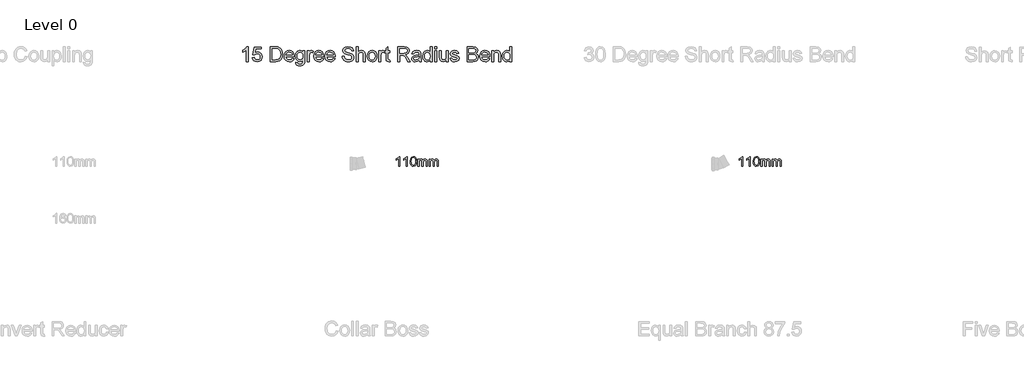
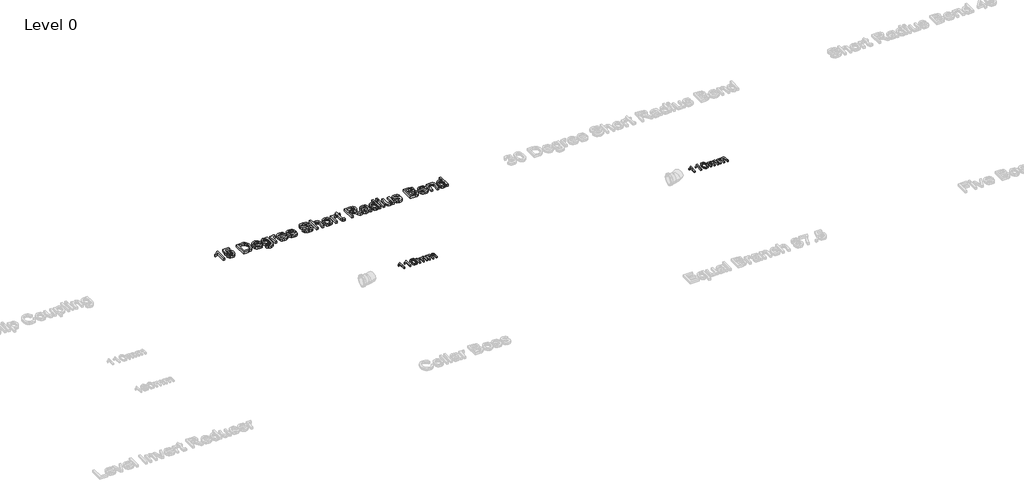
# One storey, part 11 of 15: 3 proxies.
"""IFC4 building model written with IfcOpenShell, lengths in millimetres."""

from ifc_helpers import new_model, si_unit, origin, origin_with_axes, place, context, project, spatial, polyline, outline, extrude, element, save

model = new_model("IFC4")

# Units and contexts
model_context = context("Model", 3, world=origin())
ifc_project = project(units=[si_unit("LENGTHUNIT", "METRE", prefix="MILLI")], contexts=[model_context])

# Site, building, storey
site = spatial("IfcSite", under=ifc_project)
building = spatial("IfcBuilding", under=site)
storey = spatial("IfcBuildingStorey", under=building, Name="Level 0", Elevation=0.0)

# Proxies
placement = place(None, origin())
element("IfcBuildingElementProxy", 1, Name="100mm Arial", ObjectType="100mm Arial", at=placement, inside=storey, context=model_context, shape_type="SweptSolid", body=[
    extrude(outline(polyline([(-13791.7293188, 8237.7167304), (-13804.0370111, 8237.7167304), (-13804.0370111, 8314.4474996), (-13815.6956649, 8306.1422111), (-13828.6523957, 8299.9282688), (-13828.6523957, 8311.5628842), (-13810.6115303, 8323.0773073), (-13799.6620111, 8336.1782688), (-13791.7293188, 8336.1782688), (-13791.7293188, 8237.7167304)])), origin_with_axes(), (0.0, 0.0, 1.0), 15.0),
    extrude(outline(polyline([(-13716.3447034, 8237.7167304), (-13728.6523957, 8237.7167304), (-13728.6523957, 8314.4474996), (-13740.3110495, 8306.1422111), (-13753.2677803, 8299.9282688), (-13753.2677803, 8311.5628842), (-13735.2269149, 8323.0773073), (-13724.2773957, 8336.1782688), (-13716.3447034, 8336.1782688), (-13716.3447034, 8237.7167304)])), origin_with_axes(), (0.0, 0.0, 1.0), 15.0),
    extrude(outline(polyline([(-13687.1139341, 8286.1542304), (-13683.4961457, 8314.4835573), (-13672.7509534, 8330.8176919), (-13654.8062418, 8336.1782688), (-13640.4312418, 8333.0051919), (-13630.5033572, 8323.8585573), (-13624.7341264, 8309.2912496), (-13622.4985495, 8286.1542304), (-13626.0802803, 8257.9450958), (-13636.7894149, 8241.5749035), (-13654.8062418, 8236.1782688), (-13667.5947034, 8238.5220188), (-13677.3062418, 8245.5532688), (-13684.6620111, 8262.2059131), (-13687.1139341, 8286.1542304)]), holes=[polyline([(-13674.8062418, 8286.1782688), (-13673.3639341, 8266.8182929), (-13669.0370111, 8255.613365), (-13662.5947034, 8250.2678121), (-13654.8062418, 8248.4859611), (-13647.0177803, 8250.2738217), (-13640.5754726, 8255.6374035), (-13636.2485495, 8266.848341), (-13634.8062418, 8286.1782688), (-13636.2004726, 8305.1025477), (-13640.3831649, 8316.394615), (-13646.8134534, 8322.0015861), (-13654.9504726, 8323.8705765), (-13662.6547995, 8322.2239419), (-13668.8447034, 8317.2840381), (-13673.3158572, 8305.2888458), (-13674.8062418, 8286.1782688)])]), origin_with_axes(), (0.0, 0.0, 1.0), 15.0),
    extrude(outline(polyline([(-13608.6523957, 8237.7167304), (-13608.6523957, 8310.0244227), (-13596.3447034, 8310.0244227), (-13596.3447034, 8298.1253842), (-13587.8831649, 8307.8729804), (-13575.8398957, 8311.5628842), (-13563.5081649, 8307.800865), (-13556.7293188, 8297.2599996), (-13547.1259534, 8307.9871631), (-13534.9985495, 8311.5628842), (-13525.7467466, 8310.0755044), (-13518.9047995, 8305.613365), (-13514.6770351, 8298.0562736), (-13513.2677803, 8287.2840381), (-13513.2677803, 8237.7167304), (-13525.5754726, 8237.7167304), (-13525.5754726, 8281.9955765), (-13526.7172995, 8292.2720188), (-13530.8519149, 8297.332115), (-13537.8831649, 8299.2551919), (-13549.9865303, 8294.3273073), (-13554.8062418, 8278.5340381), (-13554.8062418, 8237.7167304), (-13567.1139341, 8237.7167304), (-13567.1139341, 8283.3657688), (-13569.9624918, 8295.2888458), (-13579.3014341, 8299.2551919), (-13588.4120111, 8296.6109611), (-13594.4697034, 8288.8705765), (-13596.3447034, 8274.1830765), (-13596.3447034, 8237.7167304), (-13608.6523957, 8237.7167304)])), origin_with_axes(), (0.0, 0.0, 1.0), 15.0),
    extrude(outline(polyline([(-13494.8062418, 8237.7167304), (-13494.8062418, 8310.0244227), (-13482.4985495, 8310.0244227), (-13482.4985495, 8298.1253842), (-13474.0370111, 8307.8729804), (-13461.9937418, 8311.5628842), (-13449.6620111, 8307.800865), (-13442.8831649, 8297.2599996), (-13433.2797995, 8307.9871631), (-13421.1523957, 8311.5628842), (-13411.9005928, 8310.0755044), (-13405.0586457, 8305.613365), (-13400.8308813, 8298.0562736), (-13399.4216264, 8287.2840381), (-13399.4216264, 8237.7167304), (-13411.7293188, 8237.7167304), (-13411.7293188, 8281.9955765), (-13412.8711457, 8292.2720188), (-13417.0057611, 8297.332115), (-13424.0370111, 8299.2551919), (-13436.1403764, 8294.3273073), (-13440.960088, 8278.5340381), (-13440.960088, 8237.7167304), (-13453.2677803, 8237.7167304), (-13453.2677803, 8283.3657688), (-13456.116338, 8295.2888458), (-13465.4552803, 8299.2551919), (-13474.5658572, 8296.6109611), (-13480.6235495, 8288.8705765), (-13482.4985495, 8274.1830765), (-13482.4985495, 8237.7167304), (-13494.8062418, 8237.7167304)])), origin_with_axes(), (0.0, 0.0, 1.0), 15.0),
])
element("IfcBuildingElementProxy", 2, Name="100mm Arial", ObjectType="100mm Arial", at=placement, inside=storey, context=model_context, shape_type="SweptSolid", body=[
    extrude(outline(polyline([(-10291.7293188, 8237.7167304), (-10304.0370111, 8237.7167304), (-10304.0370111, 8314.4474996), (-10315.6956649, 8306.1422111), (-10328.6523957, 8299.9282688), (-10328.6523957, 8311.5628842), (-10310.6115303, 8323.0773073), (-10299.6620111, 8336.1782688), (-10291.7293188, 8336.1782688), (-10291.7293188, 8237.7167304)])), origin_with_axes(), (0.0, 0.0, 1.0), 15.0),
    extrude(outline(polyline([(-10216.3447034, 8237.7167304), (-10228.6523957, 8237.7167304), (-10228.6523957, 8314.4474996), (-10240.3110495, 8306.1422111), (-10253.2677803, 8299.9282688), (-10253.2677803, 8311.5628842), (-10235.2269149, 8323.0773073), (-10224.2773957, 8336.1782688), (-10216.3447034, 8336.1782688), (-10216.3447034, 8237.7167304)])), origin_with_axes(), (0.0, 0.0, 1.0), 15.0),
    extrude(outline(polyline([(-10187.1139341, 8286.1542304), (-10183.4961457, 8314.4835573), (-10172.7509534, 8330.8176919), (-10154.8062418, 8336.1782688), (-10140.4312418, 8333.0051919), (-10130.5033572, 8323.8585573), (-10124.7341264, 8309.2912496), (-10122.4985495, 8286.1542304), (-10126.0802803, 8257.9450958), (-10136.7894149, 8241.5749035), (-10154.8062418, 8236.1782688), (-10167.5947034, 8238.5220188), (-10177.3062418, 8245.5532688), (-10184.6620111, 8262.2059131), (-10187.1139341, 8286.1542304)]), holes=[polyline([(-10174.8062418, 8286.1782688), (-10173.3639341, 8266.8182929), (-10169.0370111, 8255.613365), (-10162.5947034, 8250.2678121), (-10154.8062418, 8248.4859611), (-10147.0177803, 8250.2738217), (-10140.5754726, 8255.6374035), (-10136.2485495, 8266.848341), (-10134.8062418, 8286.1782688), (-10136.2004726, 8305.1025477), (-10140.3831649, 8316.394615), (-10146.8134534, 8322.0015861), (-10154.9504726, 8323.8705765), (-10162.6547995, 8322.2239419), (-10168.8447034, 8317.2840381), (-10173.3158572, 8305.2888458), (-10174.8062418, 8286.1782688)])]), origin_with_axes(), (0.0, 0.0, 1.0), 15.0),
    extrude(outline(polyline([(-10108.6523957, 8237.7167304), (-10108.6523957, 8310.0244227), (-10096.3447034, 8310.0244227), (-10096.3447034, 8298.1253842), (-10087.8831649, 8307.8729804), (-10075.8398957, 8311.5628842), (-10063.5081649, 8307.800865), (-10056.7293188, 8297.2599996), (-10047.1259534, 8307.9871631), (-10034.9985495, 8311.5628842), (-10025.7467466, 8310.0755044), (-10018.9047995, 8305.613365), (-10014.6770351, 8298.0562736), (-10013.2677803, 8287.2840381), (-10013.2677803, 8237.7167304), (-10025.5754726, 8237.7167304), (-10025.5754726, 8281.9955765), (-10026.7172995, 8292.2720188), (-10030.8519149, 8297.332115), (-10037.8831649, 8299.2551919), (-10049.9865303, 8294.3273073), (-10054.8062418, 8278.5340381), (-10054.8062418, 8237.7167304), (-10067.1139341, 8237.7167304), (-10067.1139341, 8283.3657688), (-10069.9624918, 8295.2888458), (-10079.3014341, 8299.2551919), (-10088.4120111, 8296.6109611), (-10094.4697034, 8288.8705765), (-10096.3447034, 8274.1830765), (-10096.3447034, 8237.7167304), (-10108.6523957, 8237.7167304)])), origin_with_axes(), (0.0, 0.0, 1.0), 15.0),
    extrude(outline(polyline([(-9994.8062418, 8237.7167304), (-9994.8062418, 8310.0244227), (-9982.4985495, 8310.0244227), (-9982.4985495, 8298.1253842), (-9974.0370111, 8307.8729804), (-9961.9937418, 8311.5628842), (-9949.6620111, 8307.800865), (-9942.8831649, 8297.2599996), (-9933.2797995, 8307.9871631), (-9921.1523957, 8311.5628842), (-9911.9005928, 8310.0755044), (-9905.0586457, 8305.613365), (-9900.8308813, 8298.0562736), (-9899.4216264, 8287.2840381), (-9899.4216264, 8237.7167304), (-9911.7293188, 8237.7167304), (-9911.7293188, 8281.9955765), (-9912.8711457, 8292.2720188), (-9917.0057611, 8297.332115), (-9924.0370111, 8299.2551919), (-9936.1403764, 8294.3273073), (-9940.960088, 8278.5340381), (-9940.960088, 8237.7167304), (-9953.2677803, 8237.7167304), (-9953.2677803, 8283.3657688), (-9956.116338, 8295.2888458), (-9965.4552803, 8299.2551919), (-9974.5658572, 8296.6109611), (-9980.6235495, 8288.8705765), (-9982.4985495, 8274.1830765), (-9982.4985495, 8237.7167304), (-9994.8062418, 8237.7167304)])), origin_with_axes(), (0.0, 0.0, 1.0), 15.0),
])
element("IfcBuildingElementProxy", 3, Name="150mm Arial", ObjectType="150mm Arial", at=placement, inside=storey, context=model_context, shape_type="SweptSolid", body=[
    extrude(outline(polyline([(-15340.4921876, 9305.2145219), (-15359.3277457, 9305.2145219), (-15359.3277457, 9422.6424548), (-15377.1700225, 9409.9321318), (-15396.9988621, 9400.4223823), (-15396.9988621, 9418.2278708), (-15369.3893183, 9435.8494184), (-15352.6322934, 9455.8989871), (-15340.4921876, 9455.8989871), (-15340.4921876, 9305.2145219)])), origin_with_axes(), (0.0, 0.0, 1.0), 25.0),
    extrude(outline(polyline([(-15295.757737, 9345.240083), (-15276.9221788, 9347.5945278), (-15273.4640881, 9336.2867549), (-15267.4308234, 9328.1887525), (-15258.8499758, 9323.3189146), (-15247.7491366, 9321.6956353), (-15234.2478674, 9323.953511), (-15224.1311125, 9330.7271383), (-15217.8127393, 9341.2347678), (-15215.7066148, 9354.6946503), (-15217.679382, 9367.368185), (-15223.5976836, 9377.0618756), (-15233.5075049, 9383.2147019), (-15247.454831, 9385.2656441), (-15263.9911267, 9381.9914943), (-15274.5677341, 9373.4934202), (-15293.4032922, 9375.847865), (-15276.9221788, 9453.5445424), (-15203.934391, 9453.5445424), (-15203.934391, 9434.7089842), (-15261.6918642, 9434.7089842), (-15269.7484799, 9393.2118952), (-15256.2931959, 9401.3788755), (-15242.1941185, 9404.1012022), (-15224.5955635, 9400.7258849), (-15209.9860498, 9390.599933), (-15200.149805, 9375.1672833), (-15196.8710567, 9355.8718727), (-15199.8233097, 9337.0363145), (-15208.6800687, 9320.9230831), (-15225.6394287, 9307.3758286), (-15247.822713, 9302.8600771), (-15266.3225788, 9305.7617464), (-15281.0608513, 9314.4667541), (-15291.1638106, 9327.9634248), (-15295.757737, 9345.240083)])), origin_with_axes(), (0.0, 0.0, 1.0), 25.0),
    extrude(outline(polyline([(-15114.4654898, 9305.2145219), (-15114.4654898, 9455.8989871), (-15062.4837638, 9455.8989871), (-15035.59159, 9453.7284834), (-15013.4450939, 9442.9495409), (-15003.0248364, 9431.4716227), (-14995.6028171, 9417.1978012), (-14991.160642, 9400.4039882), (-14989.679917, 9381.3660949), (-14993.6898307, 9350.960648), (-15003.9905266, 9329.016487), (-15017.7493132, 9315.3496709), (-15035.7571369, 9307.7896959), (-15059.9821663, 9305.2145219), (-15114.4654898, 9305.2145219)]), holes=[polyline([(-15095.6299316, 9324.0500801), (-15062.2998228, 9324.0500801), (-15038.0563994, 9326.7724068), (-15024.0768835, 9334.4611405), (-15012.6173594, 9353.16794), (-15008.5154751, 9381.6604005), (-15010.5250305, 9402.1882158), (-15016.5536967, 9417.344954), (-15025.4610396, 9427.7560145), (-15036.1066248, 9434.0467966), (-15062.8148576, 9437.063429), (-15095.6299316, 9437.063429), (-15095.6299316, 9324.0500801)])]), origin_with_axes(), (0.0, 0.0, 1.0), 25.0),
    extrude(outline(polyline([(-14888.6595211, 9338.1767487), (-14870.191845, 9335.8223039), (-14876.8459105, 9321.9071674), (-14887.4639046, 9311.505304), (-14901.8067039, 9305.0213839), (-14919.6351851, 9302.8600771), (-14941.735696, 9306.5894809), (-14958.7410412, 9317.7776921), (-14969.584363, 9335.6981437), (-14973.1988036, 9359.624269), (-14969.5475748, 9384.3551361), (-14958.5938884, 9402.8504034), (-14941.8184694, 9414.383504), (-14920.7020429, 9418.2278708), (-14900.2432054, 9414.392701), (-14883.8954493, 9402.8871916), (-14873.1762876, 9384.4287125), (-14869.6032338, 9359.7346336), (-14869.7135984, 9354.6578621), (-14954.3632455, 9354.6578621), (-14951.1028913, 9340.5587846), (-14943.5291207, 9330.1937094), (-14932.5984269, 9323.8201538), (-14919.2673031, 9321.6956353), (-14900.799627, 9325.6319727), (-14888.6595211, 9338.1767487)]), holes=[polyline([(-14954.3632455, 9373.4934202), (-14888.4387919, 9373.4934202), (-14890.9863747, 9383.4446282), (-14895.9803728, 9390.5631448), (-14906.9616504, 9397.1850207), (-14920.7756193, 9399.3923127), (-14933.4721467, 9397.6310776), (-14943.9705791, 9392.3473725), (-14951.2684382, 9384.1114143), (-14954.3632455, 9373.4934202)])]), origin_with_axes(), (0.0, 0.0, 1.0), 25.0),
    extrude(outline(polyline([(-14855.4765652, 9295.7967428), (-14836.641007, 9293.4422981), (-14830.5341659, 9283.5094842), (-14812.2504307, 9279.3156295), (-14792.9734142, 9284.0613072), (-14783.7763643, 9297.3786354), (-14782.4887773, 9319.3411905), (-14795.7509232, 9308.7461891), (-14811.9193369, 9305.2145219), (-14831.3389077, 9309.3256032), (-14845.8196628, 9321.6588471), (-14854.8281731, 9339.7402472), (-14857.8310099, 9361.095797), (-14852.4415387, 9390.2872333), (-14845.8472539, 9402.1376321), (-14836.8433421, 9410.9438073), (-14825.7379044, 9416.406855), (-14812.8390419, 9418.2278708), (-14796.0360318, 9414.1075925), (-14782.4887773, 9401.7467575), (-14782.4887773, 9415.8734261), (-14763.6532192, 9415.8734261), (-14763.6532192, 9320.3344719), (-14764.9408061, 9298.2753478), (-14768.8035671, 9283.7486075), (-14775.4576327, 9274.1146978), (-14785.1191336, 9266.7340652), (-14797.5765376, 9262.0435698), (-14812.6183127, 9260.4800713), (-14830.1432913, 9262.6827648), (-14843.9434646, 9269.2908451), (-14852.7956251, 9280.3227064), (-14855.4765652, 9295.7967428)]), holes=[polyline([(-14838.9954518, 9362.383384), (-14836.9858964, 9345.1067258), (-14830.9572302, 9333.2287359), (-14821.8935375, 9326.344744), (-14810.7789027, 9324.0500801), (-14799.7470414, 9326.3309484), (-14790.6373635, 9333.1735536), (-14784.5259239, 9344.8997921), (-14782.4887773, 9361.831561), (-14784.5857047, 9378.160923), (-14790.8764868, 9389.9193513), (-14800.1195219, 9397.0240723), (-14811.0732083, 9399.3923127), (-14821.8291582, 9397.0608605), (-14830.8468656, 9390.0665041), (-14836.9583052, 9378.4828198), (-14838.9954518, 9362.383384)])]), origin_with_axes(), (0.0, 0.0, 1.0), 25.0),
    extrude(outline(polyline([(-14735.3998819, 9305.2145219), (-14735.3998819, 9415.8734261), (-14718.9187685, 9415.8734261), (-14718.9187685, 9399.5026773), (-14707.2201211, 9414.5858391), (-14695.4478973, 9418.2278708), (-14676.5387627, 9412.4153353), (-14682.8295448, 9395.5295517), (-14696.0732966, 9399.3923127), (-14706.7234804, 9395.6767045), (-14713.5109032, 9385.3760087), (-14716.5643238, 9363.3766654), (-14716.5643238, 9305.2145219), (-14735.3998819, 9305.2145219)])), origin_with_axes(), (0.0, 0.0, 1.0), 25.0),
    extrude(outline(polyline([(-14587.2905907, 9338.1767487), (-14568.8229145, 9335.8223039), (-14575.4769801, 9321.9071674), (-14586.0949742, 9311.505304), (-14600.4377735, 9305.0213839), (-14618.2662547, 9302.8600771), (-14640.3667655, 9306.5894809), (-14657.3721108, 9317.7776921), (-14668.2154326, 9335.6981437), (-14671.8298732, 9359.624269), (-14668.1786444, 9384.3551361), (-14657.224958, 9402.8504034), (-14640.449539, 9414.383504), (-14619.3331124, 9418.2278708), (-14598.874275, 9414.392701), (-14582.5265188, 9402.8871916), (-14571.8073572, 9384.4287125), (-14568.2343033, 9359.7346336), (-14568.3446679, 9354.6578621), (-14652.994315, 9354.6578621), (-14649.7339608, 9340.5587846), (-14642.1601903, 9330.1937094), (-14631.2294965, 9323.8201538), (-14617.8983727, 9321.6956353), (-14599.4306965, 9325.6319727), (-14587.2905907, 9338.1767487)]), holes=[polyline([(-14652.994315, 9373.4934202), (-14587.0698615, 9373.4934202), (-14589.6174443, 9383.4446282), (-14594.6114424, 9390.5631448), (-14605.5927199, 9397.1850207), (-14619.4066888, 9399.3923127), (-14632.1032162, 9397.6310776), (-14642.6016486, 9392.3473725), (-14649.8995077, 9384.1114143), (-14652.994315, 9373.4934202)])]), origin_with_axes(), (0.0, 0.0, 1.0), 25.0),
    extrude(outline(polyline([(-14471.922797, 9338.1767487), (-14453.4551208, 9335.8223039), (-14460.1091864, 9321.9071674), (-14470.7271805, 9311.505304), (-14485.0699798, 9305.0213839), (-14502.898461, 9302.8600771), (-14524.9989718, 9306.5894809), (-14542.0043171, 9317.7776921), (-14552.8476389, 9335.6981437), (-14556.4620795, 9359.624269), (-14552.8108507, 9384.3551361), (-14541.8571643, 9402.8504034), (-14525.0817453, 9414.383504), (-14503.9653188, 9418.2278708), (-14483.5064813, 9414.392701), (-14467.1587251, 9402.8871916), (-14456.4395635, 9384.4287125), (-14452.8665096, 9359.7346336), (-14452.9768742, 9354.6578621), (-14537.6265213, 9354.6578621), (-14534.3661671, 9340.5587846), (-14526.7923966, 9330.1937094), (-14515.8617028, 9323.8201538), (-14502.530579, 9321.6956353), (-14484.0629028, 9325.6319727), (-14471.922797, 9338.1767487)]), holes=[polyline([(-14537.6265213, 9373.4934202), (-14471.7020678, 9373.4934202), (-14474.2496506, 9383.4446282), (-14479.2436487, 9390.5631448), (-14490.2249262, 9397.1850207), (-14504.0388952, 9399.3923127), (-14516.7354225, 9397.6310776), (-14527.233855, 9392.3473725), (-14534.531714, 9384.1114143), (-14537.6265213, 9373.4934202)])]), origin_with_axes(), (0.0, 0.0, 1.0), 25.0),
    extrude(outline(polyline([(-14379.8787218, 9357.0123068), (-14361.0431636, 9357.0123068), (-14354.9731107, 9338.1583546), (-14340.1474663, 9326.2389779), (-14317.5595118, 9321.6956353), (-14297.8778251, 9325.135332), (-14285.1675021, 9334.5898992), (-14280.9920415, 9347.2266458), (-14284.1190384, 9358.9804755), (-14296.9213319, 9367.5337319), (-14324.3469346, 9374.7258249), (-14353.8694647, 9384.0148453), (-14369.8907256, 9398.0311493), (-14375.1698323, 9416.7563429), (-14373.5373559, 9427.7882042), (-14368.6399268, 9438.0751045), (-14360.6063038, 9446.7939078), (-14349.5652454, 9453.1214781), (-14321.643002, 9458.2534319), (-14291.8445603, 9452.8823548), (-14280.4218244, 9446.2512818), (-14271.9789326, 9437.1002172), (-14266.6354466, 9425.999378), (-14264.5109281, 9413.5189813), (-14283.3464863, 9413.5189813), (-14286.804577, 9424.7577763), (-14294.0150641, 9432.8695742), (-14305.2814502, 9437.7807989), (-14320.907238, 9439.4178738), (-14336.9009077, 9437.799193), (-14347.8729882, 9432.9431506), (-14354.2189526, 9425.7970429), (-14356.3342741, 9417.3081658), (-14354.835155, 9410.0700876), (-14350.3377976, 9404.248355), (-14319.5828628, 9393.72693), (-14286.252754, 9384.2723627), (-14275.5151983, 9377.4389546), (-14268.0242012, 9369.0052599), (-14263.6234128, 9359.063249), (-14262.1564833, 9347.7048924), (-14263.844142, 9336.0936169), (-14268.9071179, 9325.1721202), (-14277.1384776, 9315.7727352), (-14288.3312873, 9308.727795), (-14301.7911698, 9304.3270066), (-14316.8237478, 9302.8600771), (-14335.2776284, 9304.4419697), (-14350.4665563, 9309.1876475), (-14362.5652754, 9317.1155045), (-14371.7485297, 9328.2439348), (-14377.6438387, 9341.8003863), (-14379.8787218, 9357.0123068)])), origin_with_axes(), (0.0, 0.0, 1.0), 25.0),
    extrude(outline(polyline([(-14236.2575909, 9305.2145219), (-14236.2575909, 9455.8989871), (-14217.4220327, 9455.8989871), (-14217.4220327, 9400.4959587), (-14202.7343441, 9413.7948928), (-14184.6437469, 9418.2278708), (-14163.4905322, 9413.3902226), (-14150.6514506, 9400.0177121), (-14146.7886896, 9375.2592538), (-14146.7886896, 9305.2145219), (-14165.6242478, 9305.2145219), (-14165.6242478, 9373.3094792), (-14167.1233669, 9385.1000972), (-14171.6207243, 9393.175107), (-14178.8679996, 9397.8380113), (-14188.6168725, 9399.3923127), (-14204.0495222, 9395.1984579), (-14214.3502181, 9383.8309043), (-14217.4220327, 9364.0020647), (-14217.4220327, 9305.2145219), (-14236.2575909, 9305.2145219)])), origin_with_axes(), (0.0, 0.0, 1.0), 25.0),
    extrude(outline(polyline([(-14125.5986867, 9360.543974), (-14121.5243936, 9387.2246157), (-14109.3015143, 9405.9774004), (-14094.1999584, 9415.1652532), (-14076.1185584, 9418.2278708), (-14056.3311056, 9414.4984671), (-14040.5259753, 9403.3102559), (-14030.1654986, 9385.5461541), (-14026.7120064, 9362.0890784), (-14028.2387167, 9343.0603822), (-14032.8188475, 9328.5750286), (-14040.3190417, 9317.7271083), (-14050.605942, 9309.6107118), (-14062.8242228, 9304.5477358), (-14076.1185584, 9302.8600771), (-14096.1451345, 9306.5756853), (-14111.9318706, 9317.7225098), (-14122.1819827, 9335.8590921), (-14125.5986867, 9360.543974)]), holes=[polyline([(-14106.7631286, 9360.5807622), (-14104.5834277, 9343.5340302), (-14098.0443253, 9331.3893259), (-14088.2034819, 9324.1190579), (-14076.1185584, 9321.6956353), (-14064.0888171, 9324.1328535), (-14054.2663679, 9331.4445082), (-14047.7272654, 9343.7501609), (-14045.5475646, 9361.1693734), (-14047.741061, 9377.7194646), (-14054.3215502, 9389.6986221), (-14064.157795, 9396.96889), (-14076.1185584, 9399.3923127), (-14088.2034819, 9396.9780871), (-14098.0443253, 9389.7354103), (-14104.5834277, 9377.6182971), (-14106.7631286, 9360.5807622)])]), origin_with_axes(), (0.0, 0.0, 1.0), 25.0),
    extrude(outline(polyline([(-14005.5220035, 9305.2145219), (-14005.5220035, 9415.8734261), (-13989.0408901, 9415.8734261), (-13989.0408901, 9399.5026773), (-13977.3422427, 9414.5858391), (-13965.5700188, 9418.2278708), (-13946.6608843, 9412.4153353), (-13952.9516664, 9395.5295517), (-13966.1954182, 9399.3923127), (-13976.845602, 9395.6767045), (-13983.6330248, 9385.3760087), (-13986.6864453, 9363.3766654), (-13986.6864453, 9305.2145219), (-14005.5220035, 9305.2145219)])), origin_with_axes(), (0.0, 0.0, 1.0), 25.0),
    extrude(outline(polyline([(-13894.8630993, 9320.9230831), (-13892.5086546, 9304.6626989), (-13906.598535, 9302.8600771), (-13922.3806726, 9305.9870741), (-13930.2533473, 9314.1908426), (-13932.5342157, 9335.5647865), (-13932.5342157, 9397.0378679), (-13946.6608843, 9397.0378679), (-13946.6608843, 9415.8734261), (-13932.5342157, 9415.8734261), (-13932.5342157, 9442.7655999), (-13913.6986575, 9453.838848), (-13913.6986575, 9415.8734261), (-13894.8630993, 9415.8734261), (-13894.8630993, 9397.0378679), (-13913.6986575, 9397.0378679), (-13913.6986575, 9336.1166095), (-13912.7053761, 9326.4045248), (-13909.4864087, 9322.9648282), (-13903.0668678, 9321.6956353), (-13894.8630993, 9320.9230831)])), origin_with_axes(), (0.0, 0.0, 1.0), 25.0),
    extrude(outline(polyline([(-13814.8119772, 9305.2145219), (-13814.8119772, 9455.8989871), (-13749.880805, 9455.8989871), (-13719.7328755, 9451.8338911), (-13710.4530522, 9446.2052966), (-13703.2517622, 9437.4497051), (-13698.6302446, 9426.5925877), (-13697.0897387, 9414.6594155), (-13699.6419201, 9399.815377), (-13707.2984641, 9387.5097242), (-13720.2892971, 9378.4874183), (-13738.8443452, 9373.4934202), (-13728.1389791, 9365.4368045), (-13712.8718763, 9346.0494234), (-13687.7455361, 9305.2145219), (-13709.6345148, 9305.2145219), (-13729.2426251, 9336.4477033), (-13743.4060819, 9357.1226714), (-13753.3572899, 9366.8899384), (-13762.3152165, 9370.4767879), (-13773.2413117, 9371.1389755), (-13795.976419, 9371.1389755), (-13795.976419, 9305.2145219), (-13814.8119772, 9305.2145219)]), holes=[polyline([(-13795.976419, 9389.9745336), (-13753.8171424, 9389.9745336), (-13732.3144398, 9392.6416781), (-13720.1007575, 9401.1765404), (-13715.9252969, 9413.9604397), (-13717.9164582, 9423.1482925), (-13723.8899421, 9430.5519177), (-13734.1676453, 9435.4355512), (-13749.0714647, 9437.063429), (-13795.976419, 9437.063429), (-13795.976419, 9389.9745336)])]), origin_with_axes(), (0.0, 0.0, 1.0), 25.0),
    extrude(outline(polyline([(-13595.8486137, 9319.3411905), (-13614.1139547, 9306.5756853), (-13634.2922822, 9302.8600771), (-13650.033033, 9305.0949603), (-13661.6443085, 9311.7996096), (-13668.8042118, 9321.9807438), (-13671.1908463, 9334.6450815), (-13667.5856027, 9349.5443023), (-13658.1126414, 9360.360033), (-13644.9240718, 9366.5404505), (-13628.6268994, 9369.3731419), (-13595.9589783, 9375.847865), (-13595.8486137, 9380.0417197), (-13597.1453977, 9388.4478233), (-13601.0357498, 9393.9476592), (-13609.736159, 9398.0311493), (-13621.8578707, 9399.3923127), (-13640.9141581, 9395.768675), (-13650.0008434, 9382.9111993), (-13668.8364015, 9385.2656441), (-13660.6878153, 9403.6597438), (-13644.2802783, 9414.4386863), (-13619.4298496, 9418.2278708), (-13596.6027718, 9414.8801447), (-13583.7085078, 9406.4740411), (-13577.9327605, 9393.6901418), (-13577.0130555, 9377.2090284), (-13577.0130555, 9353.7749453), (-13576.0565623, 9321.0518418), (-13572.304166, 9305.2145219), (-13591.1397241, 9305.2145219), (-13595.8486137, 9319.3411905)]), holes=[polyline([(-13595.8486137, 9357.0123068), (-13626.2356665, 9351.2365595), (-13642.4408684, 9348.183139), (-13649.7801142, 9343.216732), (-13652.3552881, 9335.9694567), (-13646.7450877, 9325.7791254), (-13630.2823684, 9321.6956353), (-13611.2260811, 9326.2021897), (-13598.9388224, 9337.1098909), (-13595.9589783, 9351.6780179), (-13595.8486137, 9357.0123068)])]), origin_with_axes(), (0.0, 0.0, 1.0), 25.0),
    extrude(outline(polyline([(-13482.8352648, 9305.2145219), (-13482.8352648, 9322.9832223), (-13495.2972673, 9307.8908634), (-13512.5233418, 9302.8600771), (-13524.7002358, 9304.681093), (-13535.8470603, 9310.1441407), (-13545.2832334, 9318.8675425), (-13552.3281736, 9330.4696209), (-13556.7151664, 9344.4813264), (-13558.1774974, 9360.4336094), (-13552.7880261, 9390.415992), (-13546.0557856, 9402.3077775), (-13536.6380065, 9411.0541719), (-13525.2474603, 9416.4344461), (-13512.5969182, 9418.2278708), (-13495.232888, 9413.095917), (-13482.8352648, 9399.7601947), (-13482.8352648, 9455.8989871), (-13463.9997066, 9455.8989871), (-13463.9997066, 9305.2145219), (-13482.8352648, 9305.2145219)]), holes=[polyline([(-13539.3419392, 9360.5071858), (-13537.2174207, 9343.4696509), (-13530.8438651, 9331.3525377), (-13521.5824359, 9324.1098609), (-13510.7942964, 9321.6956353), (-13500.0107554, 9323.9994963), (-13490.9838509, 9330.9110793), (-13484.8724113, 9342.559143), (-13482.8352648, 9359.072446), (-13484.9091995, 9377.1262549), (-13491.1310037, 9389.6434398), (-13500.3878344, 9396.9550945), (-13511.5668486, 9399.3923127), (-13522.4653527, 9397.0516635), (-13531.3956881, 9390.0297159), (-13537.3553764, 9377.967785), (-13539.3419392, 9360.5071858)])]), origin_with_axes(), (0.0, 0.0, 1.0), 25.0),
    extrude(outline(polyline([(-13435.7463694, 9437.063429), (-13435.7463694, 9455.8989871), (-13416.9108112, 9455.8989871), (-13416.9108112, 9437.063429), (-13435.7463694, 9437.063429)])), origin_with_axes(), (0.0, 0.0, 1.0), 25.0),
    extrude(outline(polyline([(-13435.7463694, 9305.2145219), (-13435.7463694, 9415.8734261), (-13416.9108112, 9415.8734261), (-13416.9108112, 9305.2145219), (-13435.7463694, 9305.2145219)])), origin_with_axes(), (0.0, 0.0, 1.0), 25.0),
    extrude(outline(polyline([(-13318.0241309, 9305.2145219), (-13318.0241309, 9324.2340211), (-13332.7761989, 9308.2035631), (-13352.0164273, 9302.8600771), (-13369.7299453, 9306.6124735), (-13381.9436276, 9316.0302526), (-13387.553828, 9329.8994038), (-13388.657474, 9347.4105868), (-13388.657474, 9415.8734261), (-13369.8219158, 9415.8734261), (-13369.8219158, 9356.2765428), (-13368.6814816, 9337.0731027), (-13361.2318712, 9325.7975195), (-13347.1971731, 9321.6956353), (-13331.4702178, 9325.88949), (-13321.0775515, 9337.312226), (-13318.0241309, 9358.2998938), (-13318.0241309, 9415.8734261), (-13299.1885728, 9415.8734261), (-13299.1885728, 9305.2145219), (-13318.0241309, 9305.2145219)])), origin_with_axes(), (0.0, 0.0, 1.0), 25.0),
    extrude(outline(polyline([(-13280.3530146, 9338.1767487), (-13261.5174565, 9340.5311935), (-13258.5468093, 9332.4745778), (-13252.7986532, 9326.5516776), (-13232.8226608, 9321.6956353), (-13213.6192207, 9326.1470074), (-13207.3652268, 9336.5948561), (-13208.9379223, 9341.3957161), (-13213.6560089, 9345.056142), (-13233.04339, 9350.4272191), (-13261.4070919, 9359.6426631), (-13273.786321, 9370.4032115), (-13277.9985698, 9385.5967379), (-13274.6140555, 9399.631436), (-13265.3802174, 9410.3551961), (-13253.4056585, 9415.9286084), (-13237.2004566, 9418.2278708), (-13214.2814083, 9414.5306568), (-13199.7132813, 9404.5242665), (-13193.2385581, 9387.6200888), (-13212.0741163, 9385.2656441), (-13219.1558447, 9395.6583104), (-13235.7289286, 9399.3923127), (-13253.7551464, 9395.8238573), (-13259.1630117, 9387.5097242), (-13256.9189315, 9382.0282825), (-13249.8923854, 9377.871216), (-13233.6687894, 9373.8613022), (-13206.0224575, 9364.9953461), (-13193.1833758, 9354.9521677), (-13188.5296686, 9338.5814189), (-13193.9927162, 9320.5552011), (-13209.7564597, 9307.4769962), (-13233.0801782, 9302.8600771), (-13252.0720862, 9305.0857632), (-13265.9320404, 9311.7628214), (-13275.1842726, 9322.8176754), (-13280.3530146, 9338.1767487)])), origin_with_axes(), (0.0, 0.0, 1.0), 25.0),
    extrude(outline(polyline([(-13106.1241017, 9305.2145219), (-13106.1241017, 9455.8989871), (-13048.6241458, 9455.8989871), (-13020.4627791, 9451.4660091), (-13010.9990148, 9445.8420131), (-13003.8345129, 9437.8359812), (-12997.8196423, 9418.5589646), (-13002.8780197, 9400.9558112), (-13018.1635166, 9387.6200888), (-13007.4903403, 9382.0466766), (-12999.60387, 9373.5669966), (-12994.7340321, 9362.7420689), (-12993.1107528, 9350.1329135), (-12997.5437308, 9329.8810097), (-13008.5250084, 9315.4600355), (-13024.9141513, 9307.80809), (-13049.0656042, 9305.2145219), (-13106.1241017, 9305.2145219)]), holes=[polyline([(-13087.2885435, 9394.6834231), (-13052.891577, 9394.6834231), (-13032.8052201, 9396.3021039), (-13020.7202965, 9403.2734677), (-13016.6552005, 9415.5423323), (-13020.444385, 9427.8295909), (-13031.2969039, 9435.0952603), (-13055.5035392, 9437.063429), (-13087.2885435, 9437.063429), (-13087.2885435, 9394.6834231)]), polyline([(-13087.2885435, 9324.0500801), (-13048.660934, 9324.0500801), (-13034.6814182, 9324.7858441), (-13022.8540121, 9328.8877283), (-13015.0181256, 9337.2570437), (-13011.9463109, 9349.9489725), (-13015.5515545, 9364.5906759), (-13027.2318078, 9373.3278733), (-13050.500344, 9375.847865), (-13087.2885435, 9375.847865), (-13087.2885435, 9324.0500801)])]), origin_with_axes(), (0.0, 0.0, 1.0), 25.0),
    extrude(outline(polyline([(-12892.0903569, 9338.1767487), (-12873.6226807, 9335.8223039), (-12880.2767463, 9321.9071674), (-12890.8947404, 9311.505304), (-12905.2375397, 9305.0213839), (-12923.0660209, 9302.8600771), (-12945.1665317, 9306.5894809), (-12962.171877, 9317.7776921), (-12973.0151988, 9335.6981437), (-12976.6296394, 9359.624269), (-12972.9784106, 9384.3551361), (-12962.0247242, 9402.8504034), (-12945.2493052, 9414.383504), (-12924.1328787, 9418.2278708), (-12903.6740412, 9414.392701), (-12887.3262851, 9402.8871916), (-12876.6071234, 9384.4287125), (-12873.0340695, 9359.7346336), (-12873.1444341, 9354.6578621), (-12957.7940812, 9354.6578621), (-12954.5337271, 9340.5587846), (-12946.9599565, 9330.1937094), (-12936.0292627, 9323.8201538), (-12922.6981389, 9321.6956353), (-12904.2304627, 9325.6319727), (-12892.0903569, 9338.1767487)]), holes=[polyline([(-12957.7940812, 9373.4934202), (-12891.8696277, 9373.4934202), (-12894.4172105, 9383.4446282), (-12899.4112086, 9390.5631448), (-12910.3924862, 9397.1850207), (-12924.2064551, 9399.3923127), (-12936.9029824, 9397.6310776), (-12947.4014149, 9392.3473725), (-12954.6992739, 9384.1114143), (-12957.7940812, 9373.4934202)])]), origin_with_axes(), (0.0, 0.0, 1.0), 25.0),
    extrude(outline(polyline([(-12854.1985114, 9305.2145219), (-12854.1985114, 9415.8734261), (-12835.3629532, 9415.8734261), (-12835.3629532, 9400.4223823), (-12820.9603731, 9413.7764987), (-12801.2970805, 9418.2278708), (-12783.509986, 9414.6410214), (-12771.3698802, 9405.2232423), (-12765.7228916, 9391.3724852), (-12764.7296102, 9373.1623264), (-12764.7296102, 9305.2145219), (-12783.5651683, 9305.2145219), (-12783.5651683, 9370.6239407), (-12785.7356721, 9387.288995), (-12793.4060117, 9396.0997688), (-12806.3370638, 9399.3923127), (-12817.3689251, 9397.5437057), (-12826.7729087, 9391.9978846), (-12833.2154421, 9381.2833215), (-12835.3629532, 9363.9284883), (-12835.3629532, 9305.2145219), (-12854.1985114, 9305.2145219)])), origin_with_axes(), (0.0, 0.0, 1.0), 25.0),
    extrude(outline(polyline([(-12670.5518194, 9305.2145219), (-12670.5518194, 9322.9832223), (-12683.013822, 9307.8908634), (-12700.2398964, 9302.8600771), (-12712.4167905, 9304.681093), (-12723.5636149, 9310.1441407), (-12732.9997881, 9318.8675425), (-12740.0447283, 9330.4696209), (-12744.4317211, 9344.4813264), (-12745.894052, 9360.4336094), (-12740.5045808, 9390.415992), (-12733.7723403, 9402.3077775), (-12724.3545612, 9411.0541719), (-12712.9640149, 9416.4344461), (-12700.3134728, 9418.2278708), (-12682.9494426, 9413.095917), (-12670.5518194, 9399.7601947), (-12670.5518194, 9455.8989871), (-12651.7162612, 9455.8989871), (-12651.7162612, 9305.2145219), (-12670.5518194, 9305.2145219)]), holes=[polyline([(-12727.0584939, 9360.5071858), (-12724.9339753, 9343.4696509), (-12718.5604198, 9331.3525377), (-12709.2989905, 9324.1098609), (-12698.510851, 9321.6956353), (-12687.72731, 9323.9994963), (-12678.7004056, 9330.9110793), (-12672.5889659, 9342.559143), (-12670.5518194, 9359.072446), (-12672.6257541, 9377.1262549), (-12678.8475584, 9389.6434398), (-12688.1043891, 9396.9550945), (-12699.2834032, 9399.3923127), (-12710.1819073, 9397.0516635), (-12719.1122428, 9390.0297159), (-12725.0719311, 9377.967785), (-12727.0584939, 9360.5071858)])]), origin_with_axes(), (0.0, 0.0, 1.0), 25.0),
])

save(model, "model.ifc")
